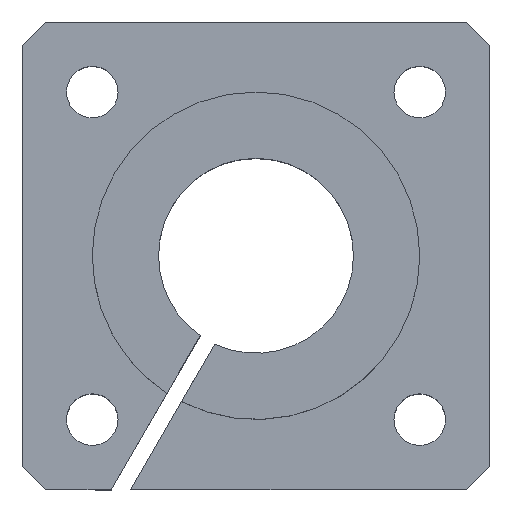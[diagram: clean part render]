
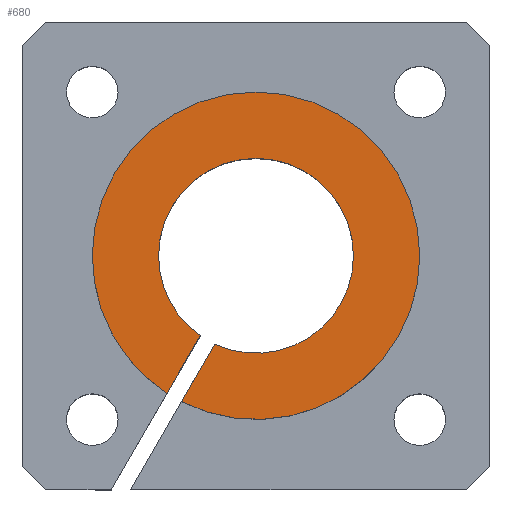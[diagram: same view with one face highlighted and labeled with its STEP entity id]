
A CAD part, top view. The second image highlights one B-rep face of the part: STEP entity #680.
In plain terms, the highlighted planar face has unit normal (0, 0, 1).
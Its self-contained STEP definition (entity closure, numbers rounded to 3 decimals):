
#43 = DIRECTION ( 'NONE',  ( 1., 0., 0. ) ) ;
#46 = DIRECTION ( 'NONE',  ( 0., 0., 1. ) ) ;
#53 = CIRCLE ( 'NONE', #90, 21. ) ;
#59 = EDGE_CURVE ( 'NONE', #265, #620, #120, .T. ) ;
#66 = EDGE_CURVE ( 'NONE', #1018, #620, #314, .T. ) ;
#73 = DIRECTION ( 'NONE',  ( 0., 0., 1. ) ) ;
#90 = AXIS2_PLACEMENT_3D ( 'NONE', #1183, #302, #43 ) ;
#120 = LINE ( 'NONE', #777, #822 ) ;
#141 = EDGE_LOOP ( 'NONE', ( #205, #856, #466, #303, #580, #1043, #525, #749 ) ) ;
#150 = DIRECTION ( 'NONE',  ( 1., 0., 0. ) ) ;
#156 = CARTESIAN_POINT ( 'NONE',  ( -5.296, -11.323, 12.5 ) ) ;
#168 = CARTESIAN_POINT ( 'NONE',  ( 0., 0., 12.5 ) ) ;
#205 = ORIENTED_EDGE ( 'NONE', *, *, #1121, .F. ) ;
#221 = CIRCLE ( 'NONE', #990, 12.5 ) ;
#225 = CARTESIAN_POINT ( 'NONE',  ( -12.5, 0., 12.5 ) ) ;
#229 = DIRECTION ( 'NONE',  ( 0.5, 0.866, 0. ) ) ;
#249 = DIRECTION ( 'NONE',  ( 0., 0., 1. ) ) ;
#265 = VERTEX_POINT ( 'NONE', #344 ) ;
#266 = DIRECTION ( 'NONE',  ( 0., 0., 1. ) ) ;
#267 = VERTEX_POINT ( 'NONE', #156 ) ;
#272 = CIRCLE ( 'NONE', #369, 21. ) ;
#277 = FACE_OUTER_BOUND ( 'NONE', #141, .T. ) ;
#291 = EDGE_CURVE ( 'NONE', #267, #665, #221, .T. ) ;
#295 = DIRECTION ( 'NONE',  ( 0., 0., 1. ) ) ;
#302 = DIRECTION ( 'NONE',  ( 0., 0., 1. ) ) ;
#303 = ORIENTED_EDGE ( 'NONE', *, *, #66, .T. ) ;
#314 = CIRCLE ( 'NONE', #738, 21. ) ;
#321 = EDGE_CURVE ( 'NONE', #665, #436, #638, .T. ) ;
#338 = CARTESIAN_POINT ( 'NONE',  ( 0., 0., 12.5 ) ) ;
#341 = DIRECTION ( 'NONE',  ( 0., 0., 1. ) ) ;
#344 = CARTESIAN_POINT ( 'NONE',  ( -7.158, -10.248, 12.5 ) ) ;
#351 = AXIS2_PLACEMENT_3D ( 'NONE', #1139, #266, #549 ) ;
#369 = AXIS2_PLACEMENT_3D ( 'NONE', #1035, #341, #1122 ) ;
#436 = VERTEX_POINT ( 'NONE', #225 ) ;
#466 = ORIENTED_EDGE ( 'NONE', *, *, #994, .T. ) ;
#501 = VERTEX_POINT ( 'NONE', #1228 ) ;
#518 = CARTESIAN_POINT ( 'NONE',  ( -21., 0., 12.5 ) ) ;
#521 = CARTESIAN_POINT ( 'NONE',  ( 0., 0., 12.5 ) ) ;
#525 = ORIENTED_EDGE ( 'NONE', *, *, #321, .F. ) ;
#549 = DIRECTION ( 'NONE',  ( 1., 0., 0. ) ) ;
#554 = EDGE_CURVE ( 'NONE', #436, #265, #883, .T. ) ;
#580 = ORIENTED_EDGE ( 'NONE', *, *, #59, .F. ) ;
#618 = AXIS2_PLACEMENT_3D ( 'NONE', #338, #73, #1038 ) ;
#620 = VERTEX_POINT ( 'NONE', #1119 ) ;
#638 = CIRCLE ( 'NONE', #1252, 12.5 ) ;
#653 = CARTESIAN_POINT ( 'NONE',  ( 12.5, 0., 12.5 ) ) ;
#665 = VERTEX_POINT ( 'NONE', #653 ) ;
#678 = DIRECTION ( 'NONE',  ( -0.5, -0.866, 0. ) ) ;
#680 = ADVANCED_FACE ( 'NONE', ( #277 ), #1053, .T. ) ;
#702 = LINE ( 'NONE', #1096, #855 ) ;
#738 = AXIS2_PLACEMENT_3D ( 'NONE', #878, #295, #791 ) ;
#749 = ORIENTED_EDGE ( 'NONE', *, *, #291, .F. ) ;
#777 = CARTESIAN_POINT ( 'NONE',  ( -1.326, -0.147, 12.5 ) ) ;
#791 = DIRECTION ( 'NONE',  ( 1., 0., 0. ) ) ;
#822 = VECTOR ( 'NONE', #678, 1000. ) ;
#855 = VECTOR ( 'NONE', #229, 1000. ) ;
#856 = ORIENTED_EDGE ( 'NONE', *, *, #1180, .T. ) ;
#863 = CARTESIAN_POINT ( 'NONE',  ( -9.555, -18.7, 12.5 ) ) ;
#878 = CARTESIAN_POINT ( 'NONE',  ( 0., 0., 12.5 ) ) ;
#883 = CIRCLE ( 'NONE', #618, 12.5 ) ;
#906 = VERTEX_POINT ( 'NONE', #863 ) ;
#918 = DIRECTION ( 'NONE',  ( 1., 0., 0. ) ) ;
#990 = AXIS2_PLACEMENT_3D ( 'NONE', #168, #46, #150 ) ;
#994 = EDGE_CURVE ( 'NONE', #501, #1018, #53, .T. ) ;
#1018 = VERTEX_POINT ( 'NONE', #518 ) ;
#1035 = CARTESIAN_POINT ( 'NONE',  ( 0., 0., 12.5 ) ) ;
#1038 = DIRECTION ( 'NONE',  ( 1., 0., 0. ) ) ;
#1043 = ORIENTED_EDGE ( 'NONE', *, *, #554, .F. ) ;
#1053 = PLANE ( 'NONE',  #351 ) ;
#1096 = CARTESIAN_POINT ( 'NONE',  ( 0.536, -1.222, 12.5 ) ) ;
#1119 = CARTESIAN_POINT ( 'NONE',  ( -11.417, -17.625, 12.5 ) ) ;
#1121 = EDGE_CURVE ( 'NONE', #906, #267, #702, .T. ) ;
#1122 = DIRECTION ( 'NONE',  ( 1., 0., 0. ) ) ;
#1139 = CARTESIAN_POINT ( 'NONE',  ( 0., 0., 12.5 ) ) ;
#1180 = EDGE_CURVE ( 'NONE', #906, #501, #272, .T. ) ;
#1183 = CARTESIAN_POINT ( 'NONE',  ( 0., 0., 12.5 ) ) ;
#1228 = CARTESIAN_POINT ( 'NONE',  ( 21., 0., 12.5 ) ) ;
#1252 = AXIS2_PLACEMENT_3D ( 'NONE', #521, #249, #918 ) ;
